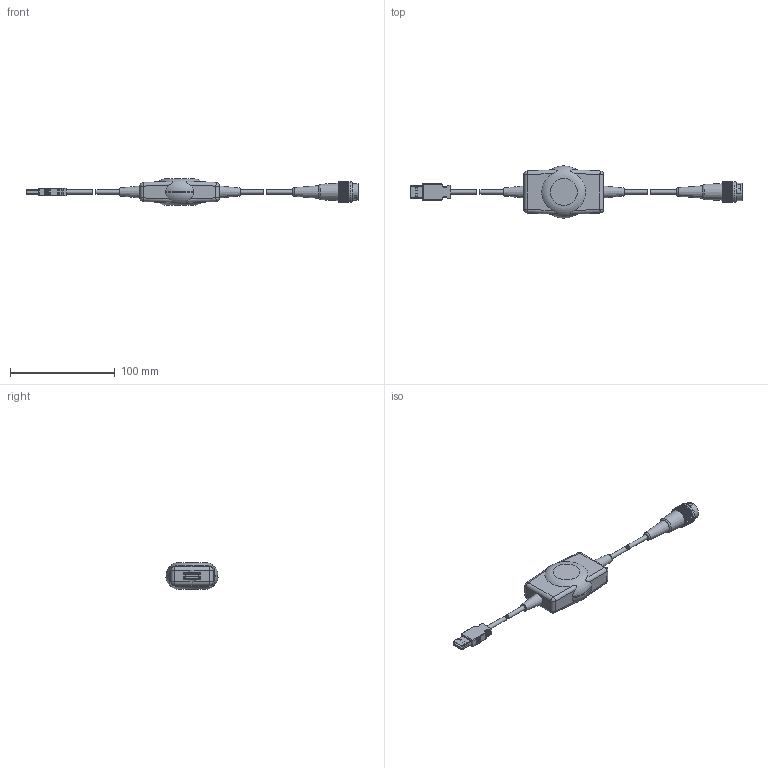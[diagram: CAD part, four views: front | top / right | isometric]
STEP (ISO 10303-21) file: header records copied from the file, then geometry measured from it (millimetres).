
FILE_DESCRIPTION(/* description */ ('STEP AP203'),/* implementation_level */ '2;1');
FILE_NAME(/* name */ 'P_MZ_E100_0067',/* time_stamp */ '2023-04-13T09:07:47+02:00',/* author */ ('License CC BY-ND 4.0'),/* organization */ ('CADENAS'),/* preprocessor_version */ 'ST-DEVELOPER v19.3',/* originating_system */ 'PARTsolutions',/* authorisation */ ' ');
FILE_SCHEMA (('CONFIG_CONTROL_DESIGN'));
Length unit declared in the file: millimetre
Products named in the file (4): P_MZ_E100_0067; P_MZ_E100_0067_P3; P_MZ_E100_0067_P2; P_MZ_E100_0067_P1
Assembly tree (3 placements, depth 2):
  P_MZ_E100_0067
    P_MZ_E100_0067_P3
    P_MZ_E100_0067_P2
    P_MZ_E100_0067_P1
Bounding box: 317.3 x 49.75 x 25.5 mm (x, y, z)
Volume: 84422.7 mm3; surface area: 19264.5 mm2
Topology: 3 solids, 3 shells, 472 faces, 1294 edges, 816 vertices
Faces by surface type: plane 281, torus 89, cylinder 74, sphere 24, cone 4
Full cylindrical faces by diameter (mm): 4.2 x4, 14.05 x1, 16.5 x1, 19.5 x1
Entity records: 16371 total; most frequent: CARTESIAN_POINT 3208, ORIENTED_EDGE 2496, DIRECTION 2316, EDGE_CURVE 1248, VERTEX_POINT 810, LINE 780, VECTOR 780, AXIS2_PLACEMENT_3D 768
